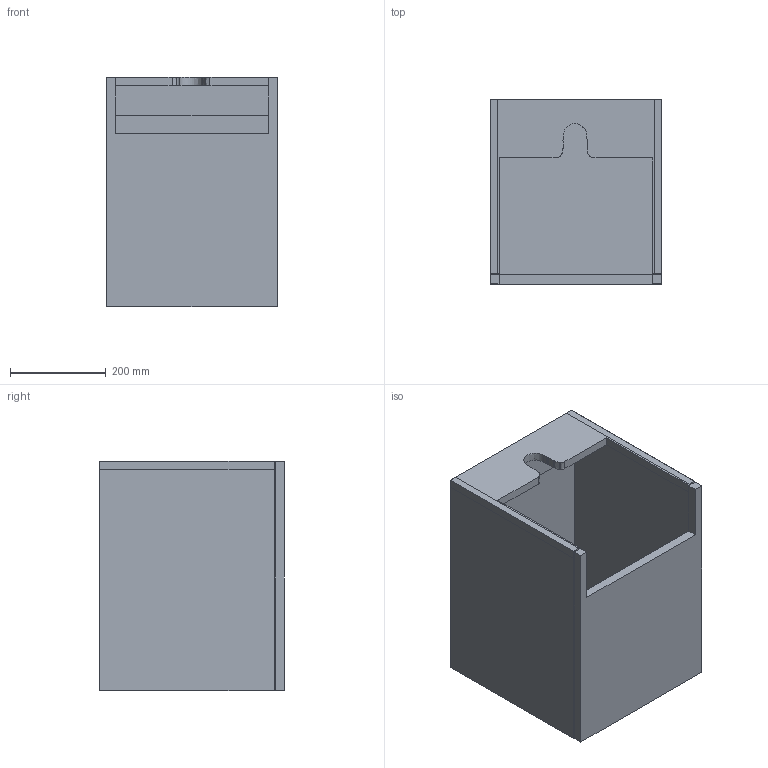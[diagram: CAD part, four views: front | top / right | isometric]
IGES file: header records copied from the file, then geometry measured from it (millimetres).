
Start section: Data from Parasolid IGES Translator 19.0.9, Copyright(c) 2006 Siemens PL M Software. All Rights Reserved.
Global section: file name: noorth-SI-H 48 D 38,8 W 36_8397.igs; native system: By Siemens PLM Incorporated; preprocessor: XPlus GENERIC/IGES 19.0.9; author: Noname; organization: Noname; date: 20200601.101953; units: metre
Bounding box: 360 x 386 x 480.01 mm (x, y, z)
Volume: 12241295.1 mm3; surface area: 1799478.1 mm2
Topology: 6 solids, 6 shells, 74 faces, 186 edges, 124 vertices
Faces by surface type: plane 65, extrusion 9
